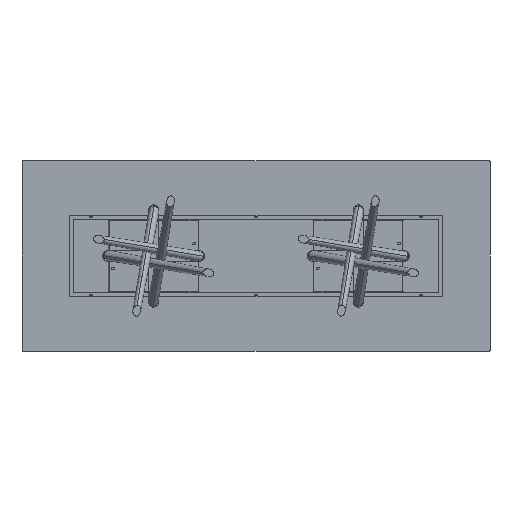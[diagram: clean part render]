
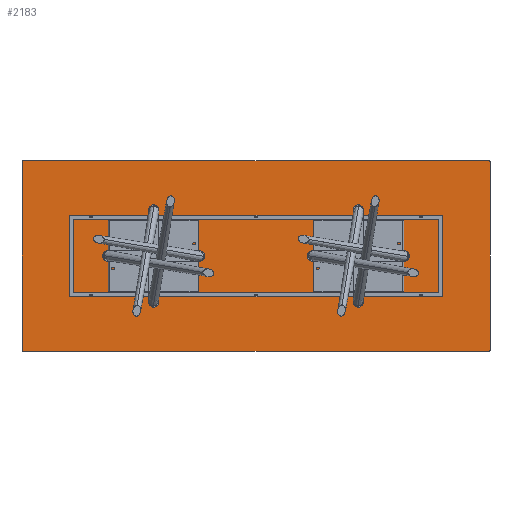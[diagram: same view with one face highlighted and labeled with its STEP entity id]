
A CAD part, front view. The second image highlights one B-rep face of the part: STEP entity #2183.
In plain terms, the highlighted planar face has unit normal (0, -1, 0).
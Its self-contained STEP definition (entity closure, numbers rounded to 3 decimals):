
#275 = DIRECTION ( 'NONE',  ( 0., 0., 1. ) ) ;
#369 = CARTESIAN_POINT ( 'NONE',  ( -1600., 0., 645. ) ) ;
#639 = ORIENTED_EDGE ( 'NONE', *, *, #1580, .F. ) ;
#841 = CARTESIAN_POINT ( 'NONE',  ( 0., 0., 0. ) ) ;
#966 = ORIENTED_EDGE ( 'NONE', *, *, #10876, .F. ) ;
#985 = ORIENTED_EDGE ( 'NONE', *, *, #9841, .T. ) ;
#1357 = DIRECTION ( 'NONE',  ( 0., -1., 0. ) ) ;
#1580 = EDGE_CURVE ( 'NONE', #4787, #3249, #9486, .T. ) ;
#2183 = ADVANCED_FACE ( 'NONE', ( #3033 ), #9055, .F. ) ;
#2663 = DIRECTION ( 'NONE',  ( -1., 0., 0. ) ) ;
#3033 = FACE_OUTER_BOUND ( 'NONE', #14463, .T. ) ;
#3249 = VERTEX_POINT ( 'NONE', #9367 ) ;
#4263 = CIRCLE ( 'NONE', #8452, 5. ) ;
#4278 = CARTESIAN_POINT ( 'NONE',  ( 1600., 0., -645. ) ) ;
#4494 = DIRECTION ( 'NONE',  ( 0., 1., 0. ) ) ;
#4576 = DIRECTION ( 'NONE',  ( 0., 0., 1. ) ) ;
#4714 = CARTESIAN_POINT ( 'NONE',  ( -1600., 0., -645. ) ) ;
#4787 = VERTEX_POINT ( 'NONE', #10116 ) ;
#4872 = CARTESIAN_POINT ( 'NONE',  ( -1600., 0., -650. ) ) ;
#5054 = LINE ( 'NONE', #6138, #6917 ) ;
#5110 = VECTOR ( 'NONE', #14204, 1000. ) ;
#5177 = DIRECTION ( 'NONE',  ( 0., 0., 1. ) ) ;
#5383 = ORIENTED_EDGE ( 'NONE', *, *, #11761, .T. ) ;
#5408 = AXIS2_PLACEMENT_3D ( 'NONE', #10881, #1357, #275 ) ;
#5586 = VERTEX_POINT ( 'NONE', #14575 ) ;
#6138 = CARTESIAN_POINT ( 'NONE',  ( -1600., 0., -650. ) ) ;
#6215 = AXIS2_PLACEMENT_3D ( 'NONE', #6800, #15181, #4576 ) ;
#6447 = CIRCLE ( 'NONE', #13868, 5. ) ;
#6727 = DIRECTION ( 'NONE',  ( 0., -1., 0. ) ) ;
#6800 = CARTESIAN_POINT ( 'NONE',  ( 1595., 0., 645. ) ) ;
#6917 = VECTOR ( 'NONE', #2663, 1000. ) ;
#7032 = VERTEX_POINT ( 'NONE', #11037 ) ;
#7656 = DIRECTION ( 'NONE',  ( 0., -1., 0. ) ) ;
#8394 = CARTESIAN_POINT ( 'NONE',  ( -1600., 0., 650. ) ) ;
#8452 = AXIS2_PLACEMENT_3D ( 'NONE', #9224, #6727, #9303 ) ;
#9055 = PLANE ( 'NONE',  #11260 ) ;
#9224 = CARTESIAN_POINT ( 'NONE',  ( 1595., 0., -645. ) ) ;
#9286 = VERTEX_POINT ( 'NONE', #369 ) ;
#9303 = DIRECTION ( 'NONE',  ( 0., 0., 1. ) ) ;
#9342 = CARTESIAN_POINT ( 'NONE',  ( 1595., 0., -650. ) ) ;
#9360 = ORIENTED_EDGE ( 'NONE', *, *, #12950, .T. ) ;
#9367 = CARTESIAN_POINT ( 'NONE',  ( 1595., 0., 650. ) ) ;
#9387 = CIRCLE ( 'NONE', #5408, 5. ) ;
#9486 = LINE ( 'NONE', #8394, #5110 ) ;
#9534 = DIRECTION ( 'NONE',  ( 0., 0., 1. ) ) ;
#9691 = CIRCLE ( 'NONE', #6215, 5. ) ;
#9841 = EDGE_CURVE ( 'NONE', #13610, #5586, #9387, .T. ) ;
#10057 = ORIENTED_EDGE ( 'NONE', *, *, #15257, .F. ) ;
#10116 = CARTESIAN_POINT ( 'NONE',  ( -1595., 0., 650. ) ) ;
#10477 = DIRECTION ( 'NONE',  ( 0., 0., -1. ) ) ;
#10876 = EDGE_CURVE ( 'NONE', #12527, #5586, #5054, .T. ) ;
#10881 = CARTESIAN_POINT ( 'NONE',  ( -1595., 0., -645. ) ) ;
#11037 = CARTESIAN_POINT ( 'NONE',  ( 1600., 0., 645. ) ) ;
#11260 = AXIS2_PLACEMENT_3D ( 'NONE', #841, #4494, #15098 ) ;
#11374 = VERTEX_POINT ( 'NONE', #4278 ) ;
#11761 = EDGE_CURVE ( 'NONE', #4787, #9286, #6447, .T. ) ;
#12449 = CARTESIAN_POINT ( 'NONE',  ( -1595., 0., 645. ) ) ;
#12527 = VERTEX_POINT ( 'NONE', #9342 ) ;
#12541 = ORIENTED_EDGE ( 'NONE', *, *, #13159, .F. ) ;
#12820 = EDGE_CURVE ( 'NONE', #12527, #11374, #4263, .T. ) ;
#12950 = EDGE_CURVE ( 'NONE', #7032, #3249, #9691, .T. ) ;
#13084 = LINE ( 'NONE', #4872, #14140 ) ;
#13159 = EDGE_CURVE ( 'NONE', #13610, #9286, #13084, .T. ) ;
#13610 = VERTEX_POINT ( 'NONE', #4714 ) ;
#13868 = AXIS2_PLACEMENT_3D ( 'NONE', #12449, #7656, #5177 ) ;
#13931 = VECTOR ( 'NONE', #10477, 1000. ) ;
#14046 = LINE ( 'NONE', #14133, #13931 ) ;
#14133 = CARTESIAN_POINT ( 'NONE',  ( 1600., 0., -650. ) ) ;
#14140 = VECTOR ( 'NONE', #9534, 1000. ) ;
#14204 = DIRECTION ( 'NONE',  ( 1., 0., 0. ) ) ;
#14463 = EDGE_LOOP ( 'NONE', ( #10057, #9360, #639, #5383, #12541, #985, #966, #14793 ) ) ;
#14575 = CARTESIAN_POINT ( 'NONE',  ( -1595., 0., -650. ) ) ;
#14793 = ORIENTED_EDGE ( 'NONE', *, *, #12820, .T. ) ;
#15098 = DIRECTION ( 'NONE',  ( 0., 0., 1. ) ) ;
#15181 = DIRECTION ( 'NONE',  ( 0., -1., 0. ) ) ;
#15257 = EDGE_CURVE ( 'NONE', #7032, #11374, #14046, .T. ) ;
